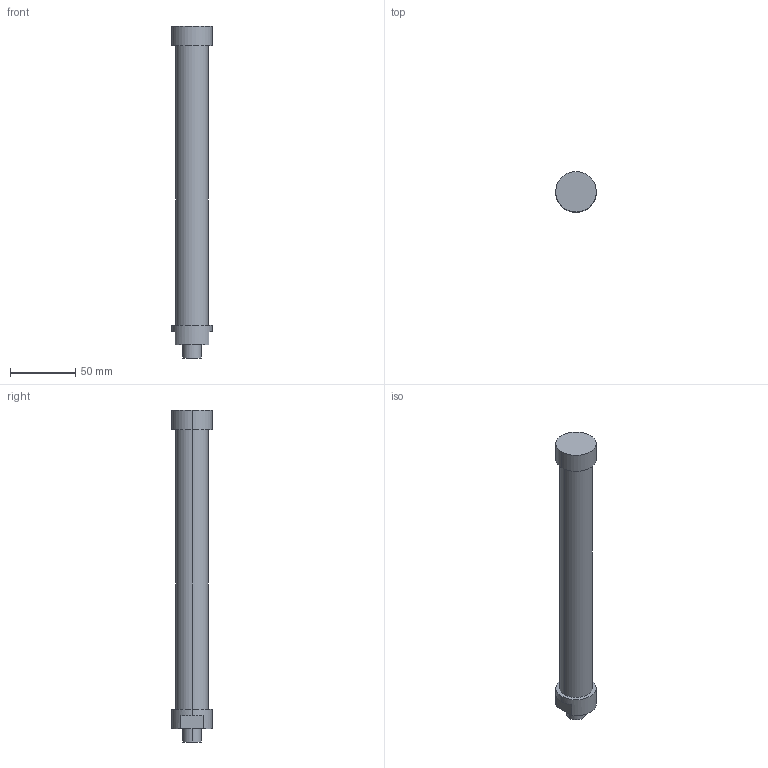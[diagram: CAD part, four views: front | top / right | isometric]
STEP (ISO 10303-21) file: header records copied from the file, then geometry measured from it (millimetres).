
FILE_DESCRIPTION(('STEP AP214'),'1');
FILE_NAME('C:/Users/Autocad/Desktop/L254-C214S1-FN.stp','2014-02-10T10:49:28',(' '),(' '),'Spatial InterOp 3D',' ',' ');
FILE_SCHEMA(('automotive_design'));
Length unit declared in the file: metre
Products named in the file (2): 1; 2
Bounding box: 31 x 31 x 254 mm (x, y, z)
Volume: 128261.1 mm3; surface area: 22774.4 mm2
Topology: 1 solids, 4 shells, 23 faces, 54 edges, 40 vertices
Faces by surface type: cylinder 12, plane 11
Entity records: 916 total; most frequent: DIRECTION 136, CARTESIAN_POINT 119, ORIENTED_EDGE 96, AXIS2_PLACEMENT_3D 57, EDGE_CURVE 54, VERTEX_POINT 40, CIRCLE 32, EDGE_LOOP 28
